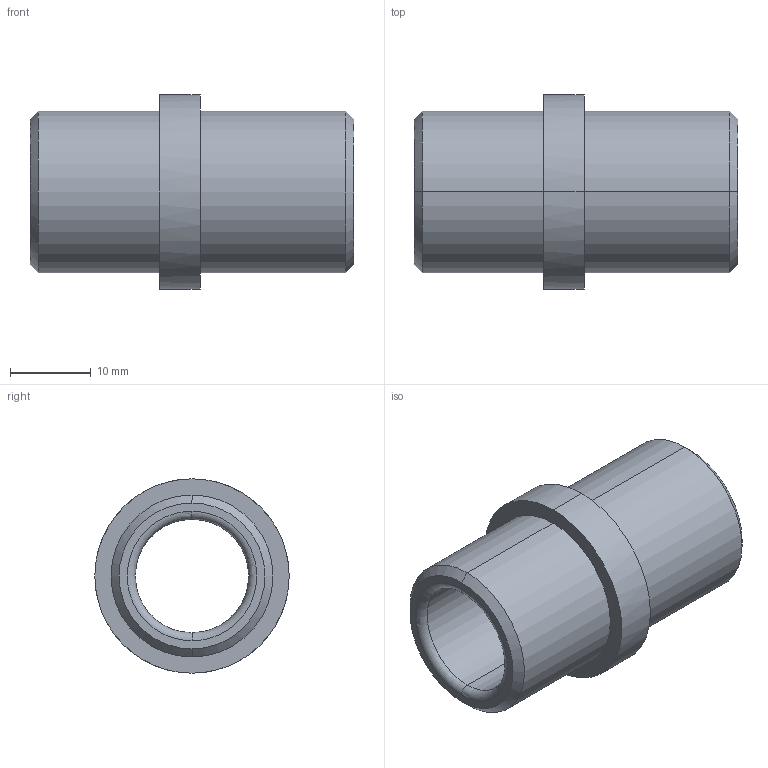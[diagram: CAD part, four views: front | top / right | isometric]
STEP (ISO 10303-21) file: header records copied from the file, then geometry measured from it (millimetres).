
FILE_DESCRIPTION(('CATIA V5 STEP Exchange'),'2;1');
FILE_NAME('C:\Users\Utente\Desktop\IO LAVORO\3D X SITO CF\X SITO\PLASTICA\355\355-14X40.stp','2021-04-21T08:58:03+00:00',('none'),('none'),'CATIA Version 5 Release 20 GA (IN-10)','CATIA V5 STEP AP203','none');
FILE_SCHEMA(('CONFIG_CONTROL_DESIGN'));
Length unit declared in the file: millimetre
Products named in the file (1): 355-14X40
Bounding box: 40 x 24 x 24 mm (x, y, z)
Volume: 7019.8 mm3; surface area: 4819.2 mm2
Topology: 1 solids, 1 shells, 20 faces, 64 edges, 48 vertices
Faces by surface type: cylinder 8, plane 4, cone 4, torus 4
Entity records: 906 total; most frequent: CARTESIAN_POINT 301, ORIENTED_EDGE 128, DIRECTION 92, EDGE_CURVE 64, AXIS2_PLACEMENT_3D 61, VERTEX_POINT 48, CIRCLE 40, EDGE_LOOP 24
